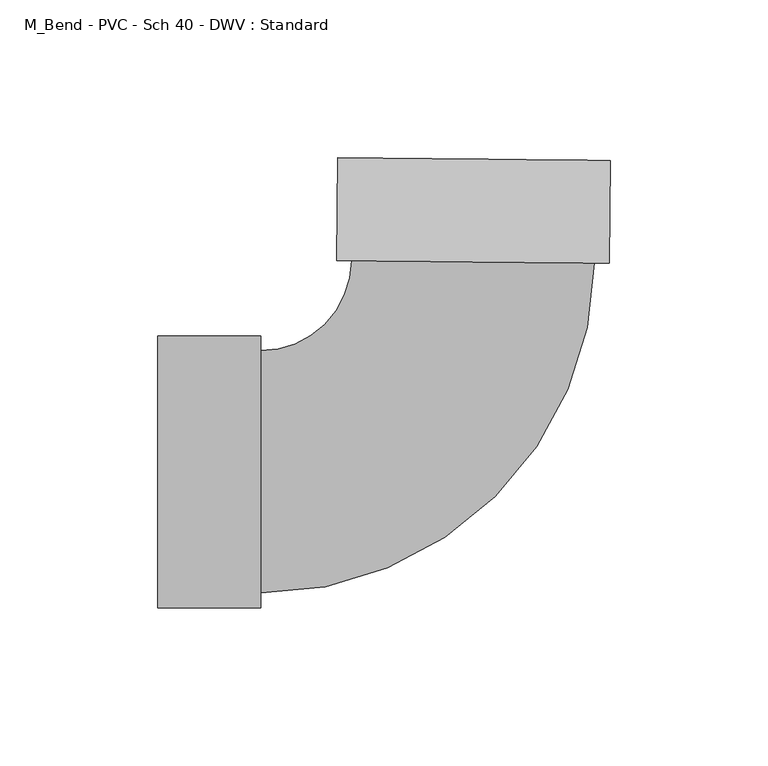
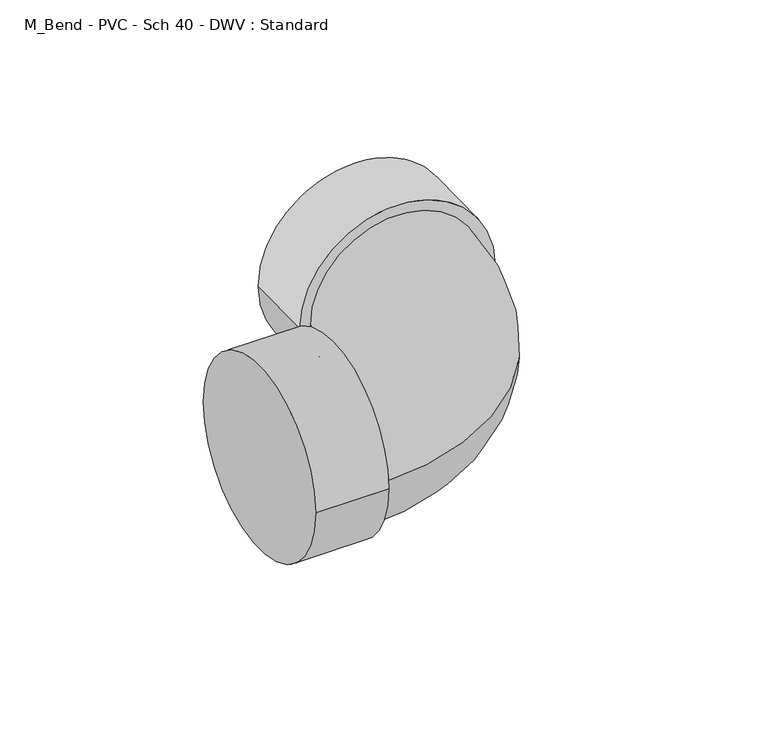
"""IFC4 building model written with IfcOpenShell, lengths in millimetres: pipe fitting geometry, M_Bend - PVC - Sch 40 - DWV : Standard."""

from ifc_helpers import new_model, si_unit, point, frame, origin, place, context, project, spatial, circle_curve, ellipse_curve, trimmed, source, transform, mapped, element, save
from ifc_brep_helpers import plane_surface, cylinder_surface, revolved_surface, advanced_brep


def m_bend_pvc_sch_40_dwv_standard_0eeb11e1(model_context):
    return source(origin(), model_context, "Body", "AdvancedBrep", [
        advanced_brep(
        [(-99.0140625, -43.0871094, 0.0), (-99.0140625, 43.0871094, 0.0), (-66.5140625, -43.0871094, 0.0), (-66.5140625, 43.0871094, 0.0), (-66.5140625, -38.3640625, 0.0), (-66.5140625, 38.3640625, 0.0), (-37.6970371, 66.8943585, 0.0), (39.0272518, 66.1271156, 0.0), (43.7500626, 66.0798875, 0.0), (-42.4198478, 66.9415866, 0.0), (44.0750463, 98.5782626, 0.0), (-42.0948641, 99.4399617, 0.0)],
        [
            (0, 1, circle_curve(frame((-99.0140625, 0.0, 0.0), z_axis=(-1.0, 0.0, 0.0), x_axis=(0.0, 1.0, 0.0)), 43.0871094)),
            (1, 0, circle_curve(frame((-99.0140625, 0.0, 0.0), z_axis=(-1.0, 0.0, 0.0), x_axis=(0.0, 1.0, 0.0)), 43.0871094)),
            (2, 3, circle_curve(frame((-66.5140625, 0.0, 0.0), z_axis=(1.0, 0.0, 0.0), x_axis=(0.0, 1.0, 0.0)), 43.0871094)),
            (3, 2, circle_curve(frame((-66.5140625, 0.0, 0.0), z_axis=(1.0, 0.0, 0.0), x_axis=(0.0, 1.0, 0.0)), 43.0871094)),
            (4, 5, circle_curve(frame((-66.5140625, 0.0, 0.0), z_axis=(-1.0, 0.0, 0.0), x_axis=(0.0, 1.0, 0.0)), 38.3640625)),
            (5, 4, circle_curve(frame((-66.5140625, 0.0, 0.0), z_axis=(-1.0, 0.0, 0.0), x_axis=(0.0, 1.0, 0.0)), 38.3640625)),
            (0, 2),
            (3, 1),
            (6, 5, circle_curve(frame((-66.5140625, 67.1825287, 0.0), z_axis=(0.0, 0.0, -1.0), x_axis=(0.0, -1.0, 0.0)), 28.8184662)),
            (4, 7, circle_curve(frame((-66.5140625, 67.1825287, 0.0), z_axis=(0.0, 0.0, 1.0), x_axis=(0.0, -1.0, 0.0)), 105.5465912)),
            (7, 6, circle_curve(frame((0.6651074, 66.510737, 0.0), z_axis=(-0.009999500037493, -0.9999500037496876, 0.0), x_axis=(-0.9999500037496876, 0.009999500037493, 0.0)), 38.3640625)),
            (6, 7, circle_curve(frame((0.6651074, 66.510737, 0.0), z_axis=(-0.009999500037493, -0.9999500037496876, 0.0), x_axis=(-0.9999500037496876, 0.009999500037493, 0.0)), 38.3640625)),
            (8, 9, circle_curve(frame((0.6651074, 66.510737, 0.0), z_axis=(-0.009999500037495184, -0.9999500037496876, 0.0), x_axis=(-0.9999500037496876, 0.009999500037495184, 0.0)), 43.0871094)),
            (9, 8, circle_curve(frame((0.6651074, 66.510737, 0.0), z_axis=(-0.009999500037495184, -0.9999500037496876, 0.0), x_axis=(-0.9999500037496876, 0.009999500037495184, 0.0)), 43.0871094)),
            (10, 11, circle_curve(frame((0.9900911, 99.0091122, 0.0), z_axis=(0.009999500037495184, 0.9999500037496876, 0.0), x_axis=(-0.9999500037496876, 0.009999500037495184, 0.0)), 43.0871094)),
            (11, 10, circle_curve(frame((0.9900911, 99.0091122, 0.0), z_axis=(0.009999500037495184, 0.9999500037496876, 0.0), x_axis=(-0.9999500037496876, 0.009999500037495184, 0.0)), 43.0871094)),
            (8, 10),
            (11, 9),
        ],
        [
            plane_surface(frame((-99.0140625, 0.0, 0.0), z_axis=(-1.0, 0.0, 0.0), x_axis=(0.0, 0.0, 1.0))),
            plane_surface(frame((-66.5140625, 0.0, 0.0), z_axis=(1.0, 0.0, 0.0), x_axis=(0.0, 0.0, 1.0))),
            cylinder_surface(frame((-99.0140625, 0.0, 0.0), z_axis=(-1.0, 0.0, 0.0), x_axis=(0.0, 1.0, 0.0)), 43.0871094),
            revolved_surface(trimmed(ellipse_curve(frame((-66.5140625, 0.0, 0.0), z_axis=(-1.0, 0.0, 0.0), x_axis=(0.0, 1.0, 0.0)), 38.3640625, 38.3640625), [point((-66.5140625, -38.3640625, 0.0))], [point((-66.5140625, 38.3640625, 0.0))], True, "CARTESIAN"), (-66.5140625, 67.1825287, 0.0), (0.0, 0.0, 1.0)),
            revolved_surface(trimmed(ellipse_curve(frame((-66.5140625, 0.0, 0.0), z_axis=(-1.0, 0.0, 0.0), x_axis=(0.0, 1.0, 0.0)), 38.3640625, 38.3640625), [point((-66.5140625, 38.3640625, 0.0))], [point((-66.5140625, -38.3640625, 0.0))], True, "CARTESIAN"), (-66.5140625, 67.1825287, 0.0), (0.0, 0.0, 1.0)),
            plane_surface(frame((0.6651074, 66.510737, 0.0), z_axis=(-0.009999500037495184, -0.9999500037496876, 0.0), x_axis=(0.0, 0.0, 1.0))),
            plane_surface(frame((0.9900911, 99.0091122, 0.0), z_axis=(0.009999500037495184, 0.9999500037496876, 0.0), x_axis=(0.0, 0.0, 1.0))),
            cylinder_surface(frame((0.6651074, 66.510737, 0.0), z_axis=(-0.009999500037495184, -0.9999500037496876, 0.0), x_axis=(-0.9999500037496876, 0.009999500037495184, 0.0)), 43.0871094),
        ],
        [
            (0, [[1, 2]]),
            (1, [[3, 4], [5, 6]]),
            (2, [[-1, 7, -4, 8]]),
            (2, [[-2, -8, -3, -7]]),
            (3, [[9, -5, 10, 11]]),
            (4, [[-9, 12, -10, -6]]),
            (5, [[13, 14], [-11, -12]]),
            (6, [[15, 16]]),
            (7, [[-13, 17, -16, 18]]),
            (7, [[-14, -18, -15, -17]]),
        ],
    ),
    ])


if __name__ == "__main__":
    model = new_model("IFC4")
    model_context = context("Model", 3, world=origin())
    ifc_project = project(units=[si_unit("LENGTHUNIT", "METRE", prefix="MILLI")], contexts=[model_context])
    site = spatial("IfcSite", under=ifc_project)
    building = spatial("IfcBuilding", under=site)
    placement = place(None, origin())
    m_bend_pvc_sch_40_dwv_standard_shape = m_bend_pvc_sch_40_dwv_standard_0eeb11e1(model_context)
    element("IfcPipeFitting", 1, ObjectType="M_Bend - PVC - Sch 40 - DWV : Standard", at=placement, inside=building, context=model_context, shape_type="MappedRepresentation", body=[
        mapped(m_bend_pvc_sch_40_dwv_standard_shape, transform((0.0, 0.0, 0.0), x_axis=(1.0, 0.0, 0.0), y_axis=(0.0, 1.0, 0.0), z_axis=(0.0, 0.0, 1.0))),
    ])
    save(model, "model.ifc")
